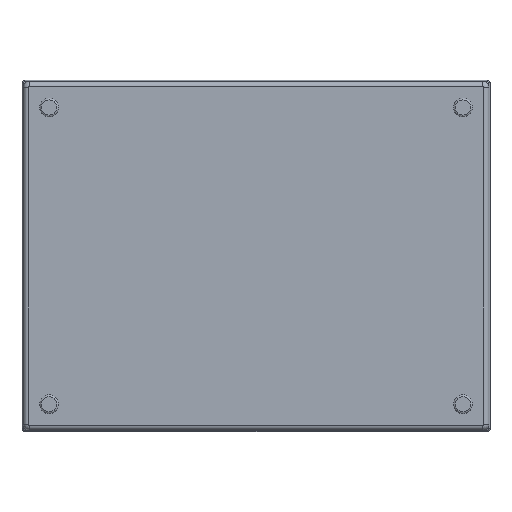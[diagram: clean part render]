
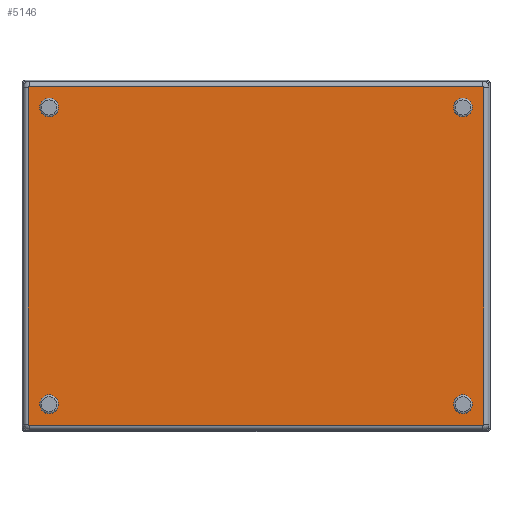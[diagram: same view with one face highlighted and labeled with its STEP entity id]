
A CAD part, top view. The second image highlights one B-rep face of the part: STEP entity #5146.
In plain terms, the highlighted planar face has unit normal (0, 0, 1).
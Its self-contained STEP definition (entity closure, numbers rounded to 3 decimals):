
#30 = EDGE_CURVE ( 'NONE', #2941, #2941, #1521, .T. ) ;
#312 = CIRCLE ( 'NONE', #438, 8. ) ;
#367 = ORIENTED_EDGE ( 'NONE', *, *, #1854, .T. ) ;
#438 = AXIS2_PLACEMENT_3D ( 'NONE', #7673, #1603, #7754 ) ;
#565 = DIRECTION ( 'NONE',  ( 0., 1., 0. ) ) ;
#574 = CARTESIAN_POINT ( 'NONE',  ( 176.8, -126.8, 0. ) ) ;
#609 = DIRECTION ( 'NONE',  ( 1., 0., 0. ) ) ;
#672 = CIRCLE ( 'NONE', #3225, 8. ) ;
#748 = DIRECTION ( 'NONE',  ( -1., 0., 0. ) ) ;
#1015 = CARTESIAN_POINT ( 'NONE',  ( 168.8, 126.8, 0. ) ) ;
#1029 = CARTESIAN_POINT ( 'NONE',  ( -184.8, 126.8, 0. ) ) ;
#1039 = DIRECTION ( 'NONE',  ( 0., 0., 1. ) ) ;
#1207 = EDGE_LOOP ( 'NONE', ( #7719 ) ) ;
#1214 = LINE ( 'NONE', #6098, #4262 ) ;
#1276 = VERTEX_POINT ( 'NONE', #4888 ) ;
#1404 = VECTOR ( 'NONE', #5054, 1000. ) ;
#1426 = VERTEX_POINT ( 'NONE', #2438 ) ;
#1516 = ORIENTED_EDGE ( 'NONE', *, *, #7725, .T. ) ;
#1521 = CIRCLE ( 'NONE', #2413, 8. ) ;
#1563 = DIRECTION ( 'NONE',  ( -1., 0., 0. ) ) ;
#1603 = DIRECTION ( 'NONE',  ( 0., 0., -1. ) ) ;
#1844 = EDGE_CURVE ( 'NONE', #2516, #5166, #4124, .T. ) ;
#1854 = EDGE_CURVE ( 'NONE', #2384, #2516, #3074, .T. ) ;
#1876 = EDGE_LOOP ( 'NONE', ( #5911 ) ) ;
#1914 = CARTESIAN_POINT ( 'NONE',  ( -194.8, -144., 0. ) ) ;
#2032 = AXIS2_PLACEMENT_3D ( 'NONE', #7638, #2239, #1563 ) ;
#2239 = DIRECTION ( 'NONE',  ( 0., 0., 1. ) ) ;
#2291 = CIRCLE ( 'NONE', #5120, 8. ) ;
#2318 = FACE_BOUND ( 'NONE', #1207, .T. ) ;
#2339 = VERTEX_POINT ( 'NONE', #5955 ) ;
#2359 = FACE_OUTER_BOUND ( 'NONE', #3532, .T. ) ;
#2384 = VERTEX_POINT ( 'NONE', #4884 ) ;
#2413 = AXIS2_PLACEMENT_3D ( 'NONE', #6163, #7846, #4780 ) ;
#2416 = CIRCLE ( 'NONE', #4995, 0.8 ) ;
#2438 = CARTESIAN_POINT ( 'NONE',  ( 194.8, -144., 0. ) ) ;
#2478 = EDGE_CURVE ( 'NONE', #2339, #2339, #672, .T. ) ;
#2481 = EDGE_CURVE ( 'NONE', #6694, #2901, #1214, .T. ) ;
#2516 = VERTEX_POINT ( 'NONE', #5663 ) ;
#2570 = CARTESIAN_POINT ( 'NONE',  ( -194., -144.8, 0. ) ) ;
#2791 = DIRECTION ( 'NONE',  ( 0., 0., 1. ) ) ;
#2839 = EDGE_CURVE ( 'NONE', #1426, #1276, #3603, .T. ) ;
#2901 = VERTEX_POINT ( 'NONE', #3276 ) ;
#2941 = VERTEX_POINT ( 'NONE', #1029 ) ;
#2981 = VECTOR ( 'NONE', #565, 1000. ) ;
#3011 = EDGE_LOOP ( 'NONE', ( #1516 ) ) ;
#3042 = CARTESIAN_POINT ( 'NONE',  ( -194.8, 144., 0. ) ) ;
#3061 = CARTESIAN_POINT ( 'NONE',  ( -184.8, -126.8, 0. ) ) ;
#3074 = LINE ( 'NONE', #6756, #5149 ) ;
#3115 = DIRECTION ( 'NONE',  ( -1., 0., 0. ) ) ;
#3225 = AXIS2_PLACEMENT_3D ( 'NONE', #574, #7285, #4265 ) ;
#3276 = CARTESIAN_POINT ( 'NONE',  ( 194., -144.8, 0. ) ) ;
#3331 = ORIENTED_EDGE ( 'NONE', *, *, #1844, .T. ) ;
#3478 = DIRECTION ( 'NONE',  ( -1., 0., 0. ) ) ;
#3501 = AXIS2_PLACEMENT_3D ( 'NONE', #6515, #1039, #3478 ) ;
#3528 = PLANE ( 'NONE',  #5264 ) ;
#3532 = EDGE_LOOP ( 'NONE', ( #5808, #4527, #4725, #367, #3331, #5988, #6171, #4296 ) ) ;
#3603 = LINE ( 'NONE', #6056, #2981 ) ;
#3650 = FACE_BOUND ( 'NONE', #1876, .T. ) ;
#3820 = EDGE_CURVE ( 'NONE', #2901, #1426, #5492, .T. ) ;
#4124 = CIRCLE ( 'NONE', #5024, 0.8 ) ;
#4206 = EDGE_CURVE ( 'NONE', #7682, #6694, #2416, .T. ) ;
#4248 = CARTESIAN_POINT ( 'NONE',  ( -194., 144., 0. ) ) ;
#4262 = VECTOR ( 'NONE', #609, 1000. ) ;
#4265 = DIRECTION ( 'NONE',  ( -1., 0., 0. ) ) ;
#4296 = ORIENTED_EDGE ( 'NONE', *, *, #2481, .T. ) ;
#4326 = DIRECTION ( 'NONE',  ( 0., 0., -1. ) ) ;
#4401 = EDGE_CURVE ( 'NONE', #6708, #6708, #2291, .T. ) ;
#4452 = EDGE_CURVE ( 'NONE', #5166, #7682, #6831, .T. ) ;
#4527 = ORIENTED_EDGE ( 'NONE', *, *, #2839, .T. ) ;
#4725 = ORIENTED_EDGE ( 'NONE', *, *, #7768, .T. ) ;
#4780 = DIRECTION ( 'NONE',  ( -1., 0., 0. ) ) ;
#4862 = DIRECTION ( 'NONE',  ( -1., 0., 0. ) ) ;
#4884 = CARTESIAN_POINT ( 'NONE',  ( 194., 144.8, 0. ) ) ;
#4888 = CARTESIAN_POINT ( 'NONE',  ( 194.8, 144., 0. ) ) ;
#4995 = AXIS2_PLACEMENT_3D ( 'NONE', #6436, #2791, #5252 ) ;
#5009 = CARTESIAN_POINT ( 'NONE',  ( -176.8, -126.8, 0. ) ) ;
#5024 = AXIS2_PLACEMENT_3D ( 'NONE', #4248, #7881, #3115 ) ;
#5054 = DIRECTION ( 'NONE',  ( 0., -1., 0. ) ) ;
#5114 = ORIENTED_EDGE ( 'NONE', *, *, #2478, .T. ) ;
#5120 = AXIS2_PLACEMENT_3D ( 'NONE', #5009, #4326, #748 ) ;
#5146 = ADVANCED_FACE ( 'NONE', ( #2318, #5418, #6602, #3650, #2359 ), #3528, .F. ) ;
#5149 = VECTOR ( 'NONE', #7386, 1000. ) ;
#5166 = VERTEX_POINT ( 'NONE', #3042 ) ;
#5233 = VERTEX_POINT ( 'NONE', #1015 ) ;
#5252 = DIRECTION ( 'NONE',  ( -1., 0., 0. ) ) ;
#5264 = AXIS2_PLACEMENT_3D ( 'NONE', #7847, #6015, #4862 ) ;
#5418 = FACE_BOUND ( 'NONE', #6232, .T. ) ;
#5492 = CIRCLE ( 'NONE', #2032, 0.8 ) ;
#5663 = CARTESIAN_POINT ( 'NONE',  ( -194., 144.8, 0. ) ) ;
#5808 = ORIENTED_EDGE ( 'NONE', *, *, #3820, .T. ) ;
#5911 = ORIENTED_EDGE ( 'NONE', *, *, #30, .T. ) ;
#5955 = CARTESIAN_POINT ( 'NONE',  ( 168.8, -126.8, 0. ) ) ;
#5988 = ORIENTED_EDGE ( 'NONE', *, *, #4452, .T. ) ;
#6015 = DIRECTION ( 'NONE',  ( 0., 0., -1. ) ) ;
#6056 = CARTESIAN_POINT ( 'NONE',  ( 194.8, 144., 0. ) ) ;
#6098 = CARTESIAN_POINT ( 'NONE',  ( 194., -144.8, 0. ) ) ;
#6163 = CARTESIAN_POINT ( 'NONE',  ( -176.8, 126.8, 0. ) ) ;
#6171 = ORIENTED_EDGE ( 'NONE', *, *, #4206, .T. ) ;
#6232 = EDGE_LOOP ( 'NONE', ( #5114 ) ) ;
#6436 = CARTESIAN_POINT ( 'NONE',  ( -194., -144., 0. ) ) ;
#6515 = CARTESIAN_POINT ( 'NONE',  ( 194., 144., 0. ) ) ;
#6602 = FACE_BOUND ( 'NONE', #3011, .T. ) ;
#6694 = VERTEX_POINT ( 'NONE', #2570 ) ;
#6708 = VERTEX_POINT ( 'NONE', #3061 ) ;
#6756 = CARTESIAN_POINT ( 'NONE',  ( -194., 144.8, 0. ) ) ;
#6826 = CIRCLE ( 'NONE', #3501, 0.8 ) ;
#6831 = LINE ( 'NONE', #1914, #1404 ) ;
#7285 = DIRECTION ( 'NONE',  ( 0., 0., -1. ) ) ;
#7386 = DIRECTION ( 'NONE',  ( -1., 0., 0. ) ) ;
#7515 = CARTESIAN_POINT ( 'NONE',  ( -194.8, -144., 0. ) ) ;
#7638 = CARTESIAN_POINT ( 'NONE',  ( 194., -144., 0. ) ) ;
#7673 = CARTESIAN_POINT ( 'NONE',  ( 176.8, 126.8, 0. ) ) ;
#7682 = VERTEX_POINT ( 'NONE', #7515 ) ;
#7719 = ORIENTED_EDGE ( 'NONE', *, *, #4401, .T. ) ;
#7725 = EDGE_CURVE ( 'NONE', #5233, #5233, #312, .T. ) ;
#7754 = DIRECTION ( 'NONE',  ( -1., 0., 0. ) ) ;
#7768 = EDGE_CURVE ( 'NONE', #1276, #2384, #6826, .T. ) ;
#7846 = DIRECTION ( 'NONE',  ( 0., 0., -1. ) ) ;
#7847 = CARTESIAN_POINT ( 'NONE',  ( 194., 144., 0. ) ) ;
#7881 = DIRECTION ( 'NONE',  ( 0., 0., 1. ) ) ;
